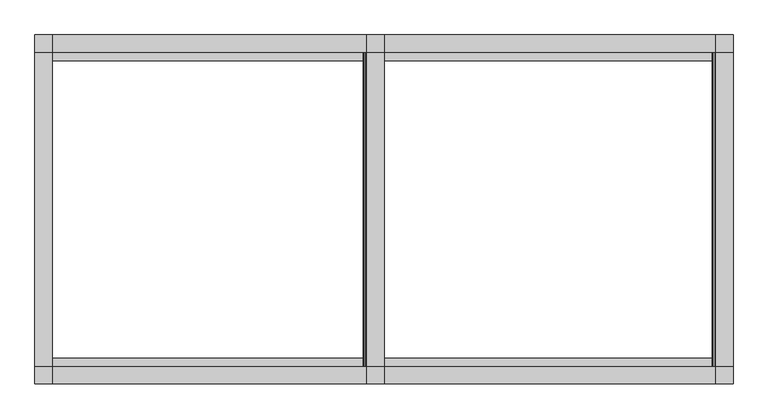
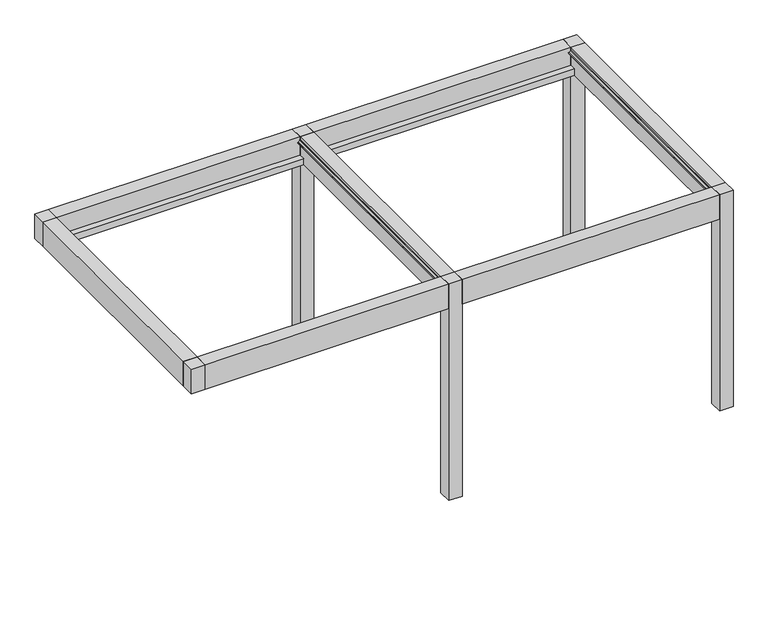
"""IFC4 building model written with IfcOpenShell, lengths in millimetres: proxy geometry, Renson_Amani_Patio_Cover : Renson_Amani_Patio_Cover."""

from ifc_helpers import new_model, si_unit, frame, origin, origin_with_axes, place, context, project, spatial, polyline, outline, extrude, source, transform, mapped, element, save


def generic_models_2ccb9494(model_context):
    return source(origin(), model_context, "Body", "SweptSolid", [
        extrude(outline(polyline([(4500.0, 1500.0), (4500.0, 1350.0), (4350.0, 1350.0), (4350.0, 1500.0), (4500.0, 1500.0)])), origin_with_axes(), (0.0, 0.0, 1.0), 2535.0),
        extrude(outline(polyline([(-1350.0, 1500.0), (-1350.0, 1350.0), (-1500.0, 1350.0), (-1500.0, 1500.0), (-1350.0, 1500.0)])), frame((0.0, 0.0, 2250.0), z_axis=(0.0, 0.0, 1.0), x_axis=(1.0, 0.0, 0.0)), (0.0, 0.0, 1.0), 285.0),
        extrude(outline(polyline([(-1350.0, -1500.0), (-1500.0, -1500.0), (-1500.0, -1350.0), (-1350.0, -1350.0), (-1350.0, -1500.0)])), frame((0.0, 0.0, 2250.0), z_axis=(0.0, 0.0, 1.0), x_axis=(1.0, 0.0, 0.0)), (0.0, 0.0, 1.0), 285.0),
        extrude(outline(polyline([(4500.0, -1350.0), (4500.0, -1500.0), (4350.0, -1500.0), (4350.0, -1350.0), (4500.0, -1350.0)])), origin_with_axes(), (0.0, 0.0, 1.0), 2535.0),
        extrude(outline(polyline([(1500.0, -1350.0), (1500.0, -1500.0), (1350.0, -1500.0), (1350.0, -1350.0), (1500.0, -1350.0)])), origin_with_axes(), (0.0, 0.0, 1.0), 2535.0),
        extrude(outline(polyline([(1500.0, 1500.0), (1500.0, 1350.0), (1350.0, 1350.0), (1350.0, 1500.0), (1500.0, 1500.0)])), origin_with_axes(), (0.0, 0.0, 1.0), 2535.0),
        extrude(outline(polyline([(-1350.0, 2535.0), (-1350.0, 2322.0), (-1280.0000001, 2322.0), (-1280.0000001, 2250.0), (-1500.0, 2250.0), (-1500.0, 2535.0), (-1350.0, 2535.0)])), frame((1500.0, 0.0, 0.0), z_axis=(1.0, 0.0, 0.0), x_axis=(0.0, 1.0, 0.0)), (0.0, 0.0, 1.0), 2850.0),
        extrude(outline(polyline([(1500.0, 2250.0), (1280.0000001, 2250.0), (1280.0000001, 2322.0), (1350.0, 2322.0), (1350.0, 2535.0), (1500.0, 2535.0), (1500.0, 2250.0)])), frame((1500.0, 0.0, 0.0), z_axis=(1.0, 0.0, 0.0), x_axis=(0.0, 1.0, 0.0)), (0.0, 0.0, 1.0), 2850.0),
        extrude(outline(polyline([(2535.0, 4500.0), (2535.0, 4350.0), (2504.6823598, 4350.0), (2504.2449277, 4345.0), (2496.400763, 4345.0), (2480.6555802, 4329.2544156), (2480.6555802, 4319.9090324), (2466.6559373, 4323.6603211), (2466.6559373, 4350.0), (2250.0, 4350.0), (2250.0, 4500.0), (2535.0, 4500.0)])), frame((0.0, -1350.0, 0.0), z_axis=(0.0, 1.0, 0.0), x_axis=(0.0, 0.0, 1.0)), (0.0, 0.0, 1.0), 2700.0),
        extrude(outline(polyline([(-1350.0, -1350.0), (-1500.0, -1350.0), (-1500.0, 1350.0), (-1350.0, 1350.0), (-1350.0, -1350.0)])), frame((0.0, 0.0, 2250.0), z_axis=(0.0, 0.0, 1.0), x_axis=(1.0, 0.0, 0.0)), (0.0, 0.0, 1.0), 285.0),
        extrude(outline(polyline([(2535.0, 1500.0), (2535.0, 1350.0), (2504.6904658, 1350.0), (2504.2449277, 1345.0), (2496.400763, 1345.0), (2480.6555802, 1329.2544156), (2480.6555802, 1319.9090324), (2466.6559373, 1323.6603211), (2466.6559373, 1350.0), (2250.0, 1350.0), (2250.0, 1500.0), (2535.0, 1500.0)])), frame((0.0, -1350.0, 0.0), z_axis=(0.0, 1.0, 0.0), x_axis=(0.0, 0.0, 1.0)), (0.0, 0.0, 1.0), 2700.0),
        extrude(outline(polyline([(-1350.0, 2535.0), (-1350.0, 2322.0), (-1280.0000001, 2322.0), (-1280.0000001, 2250.0), (-1500.0, 2250.0), (-1500.0, 2535.0), (-1350.0, 2535.0)])), frame((-1350.0, 0.0, 0.0), z_axis=(1.0, 0.0, 0.0), x_axis=(0.0, 1.0, 0.0)), (0.0, 0.0, 1.0), 2700.0),
        extrude(outline(polyline([(1500.0, 2250.0), (1280.0000001, 2250.0), (1280.0000001, 2322.0), (1350.0, 2322.0), (1350.0, 2535.0), (1500.0, 2535.0), (1500.0, 2250.0)])), frame((-1350.0, 0.0, 0.0), z_axis=(1.0, 0.0, 0.0), x_axis=(0.0, 1.0, 0.0)), (0.0, 0.0, 1.0), 2700.0),
    ])


if __name__ == "__main__":
    model = new_model("IFC4")
    model_context = context("Model", 3, world=origin())
    ifc_project = project(units=[si_unit("LENGTHUNIT", "METRE", prefix="MILLI")], contexts=[model_context])
    site = spatial("IfcSite", under=ifc_project)
    building = spatial("IfcBuilding", under=site)
    placement = place(None, origin())
    generic_models_shape = generic_models_2ccb9494(model_context)
    element("IfcBuildingElementProxy", 1, Name="Renson_Amani_Patio_Cover : Renson_Amani_Patio_Cover", ObjectType="Renson_Amani_Patio_Cover : Renson_Amani_Patio_Cover", at=placement, inside=building, context=model_context, shape_type="MappedRepresentation", body=[
        mapped(generic_models_shape, transform((0.0, 0.0, 0.0), x_axis=(1.0, 0.0, 0.0), y_axis=(0.0, 1.0, 0.0), z_axis=(0.0, 0.0, 1.0))),
    ])
    save(model, "model.ifc")
